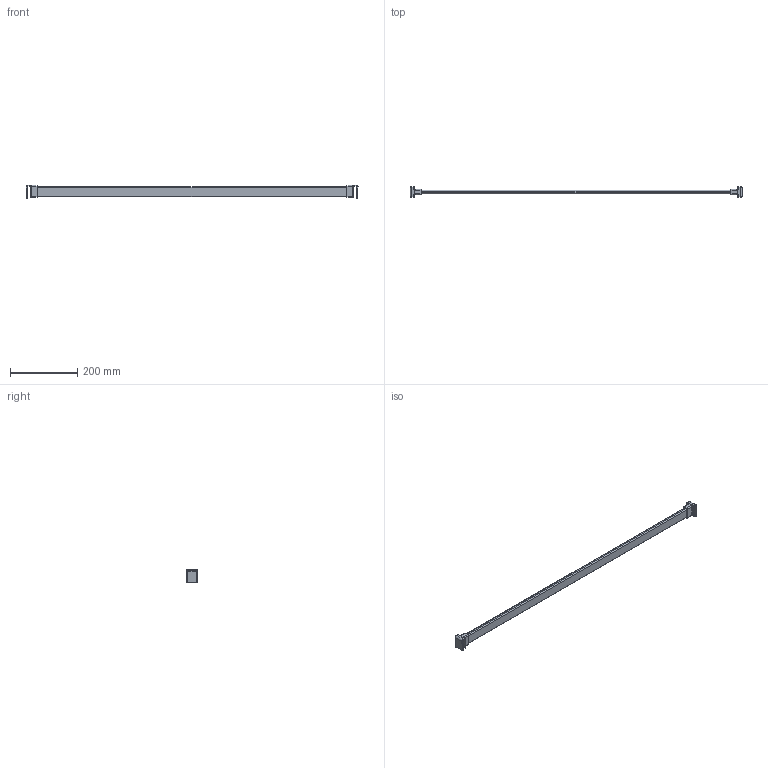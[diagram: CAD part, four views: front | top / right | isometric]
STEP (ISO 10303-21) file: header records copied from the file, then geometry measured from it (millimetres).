
FILE_DESCRIPTION (( 'STEP AP214' ), '1' );
FILE_NAME ('_Querreling_KAB-1050_KS-19_P602_Glashalter.step', '2010-08-26T14:58:56', ( 'grass' ), ( '' ), 'SwSTEP 2.0', 'SolidWorks 2009', '' );
FILE_SCHEMA (( 'AUTOMOTIVE_DESIGN' ));
Length unit declared in the file: millimetre
Products named in the file (1): _Querreling_KAB-1050_KS-19_P602_Glashalter
Bounding box: 984.78 x 30 x 41.5 mm (x, y, z)
Volume: 319049.9 mm3; surface area: 84918.8 mm2
Topology: 1 solids, 1 shells, 124 faces, 300 edges, 176 vertices
Faces by surface type: cylinder 58, plane 34, torus 16, bspline 12, sphere 4
Entity records: 5090 total; most frequent: CARTESIAN_POINT 2269, ORIENTED_EDGE 592, DIRECTION 590, EDGE_CURVE 296, AXIS2_PLACEMENT_3D 225, VERTEX_POINT 176, LINE 140, VECTOR 140
